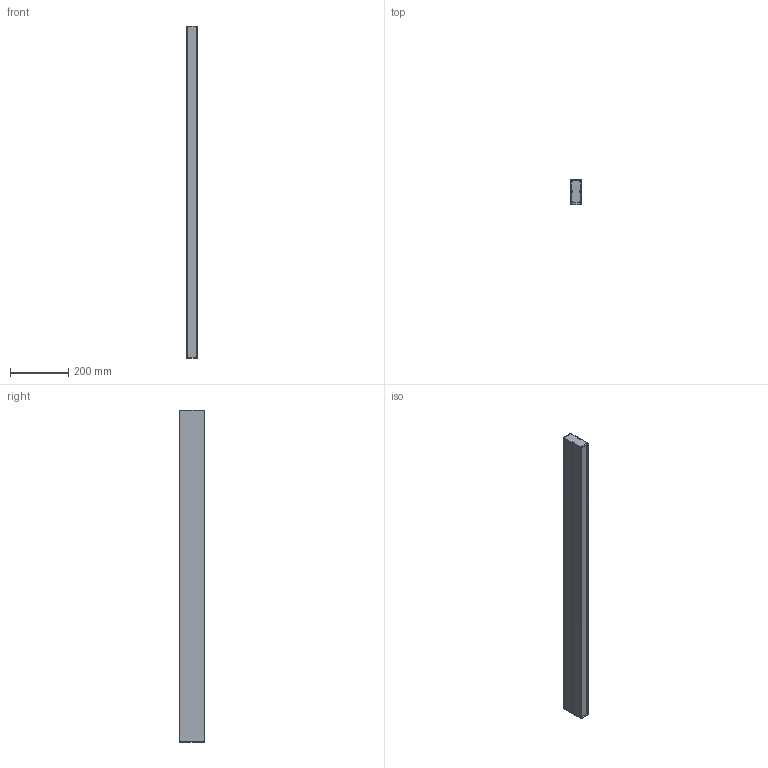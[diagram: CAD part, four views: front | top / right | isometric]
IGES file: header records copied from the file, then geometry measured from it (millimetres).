
Start section: SolidWorks IGES file using analytic representation for surfaces
Global section: file name: C:\Users\JoãoSantos\Desktop\02_3D.2D\01_2020\02_Linear\04_U35\03_Trimless\U35_TRIMLESS_1142.IGS; native system: SolidWorks 2020; preprocessor: SolidWorks 2020; author: JoãoSantos; date: 201022.125406; units: millimetre
Bounding box: 35 x 85 x 1141 mm (x, y, z)
Surface area: 614130 mm2 (no closed solid volume)
Topology: 0 solids, 0 shells, 123 faces, 1040 edges, 1040 vertices
Faces by surface type: bspline 66, revolution 57
